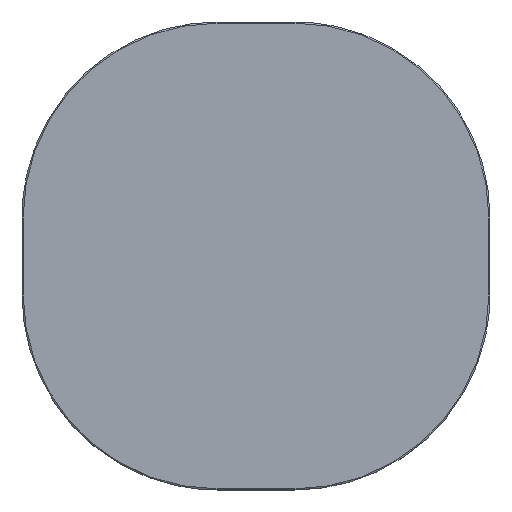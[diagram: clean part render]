
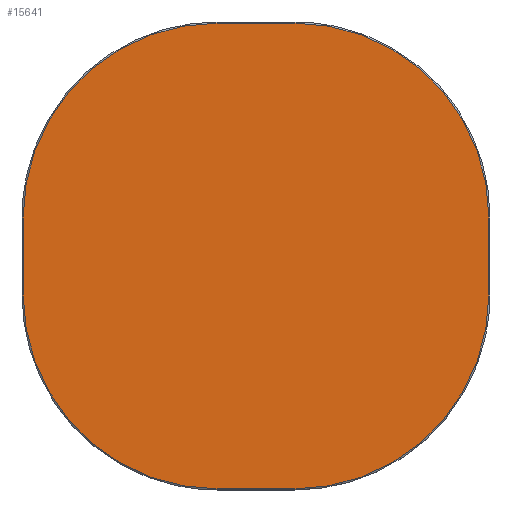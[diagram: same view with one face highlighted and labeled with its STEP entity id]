
A CAD part, top view. The second image highlights one B-rep face of the part: STEP entity #15641.
In plain terms, the highlighted planar face has unit normal (0, 0, 1).
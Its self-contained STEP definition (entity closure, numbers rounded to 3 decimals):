
#15551=CARTESIAN_POINT('',(0.,0.,20.));
#15552=DIRECTION('',(1.,0.,0.));
#15553=DIRECTION('',(0.,0.,1.));
#15554=AXIS2_PLACEMENT_3D('',#15551,#15553,#15552);
#15555=PLANE('',#15554);
#15556=CARTESIAN_POINT('',(-50.,-298.5,20.));
#15557=VERTEX_POINT('',#15556);
#15558=CARTESIAN_POINT('',(50.,-298.5,20.));
#15559=VERTEX_POINT('',#15558);
#15560=CARTESIAN_POINT('',(-50.,-298.5,20.));
#15561=DIRECTION('',(1.,0.,0.));
#15562=VECTOR('',#15561,100.);
#15563=LINE('',#15560,#15562);
#15564=EDGE_CURVE('',#15557,#15559,#15563,.T.);
#15565=ORIENTED_EDGE('E105',*,*,#15564,.T.);
#15566=CARTESIAN_POINT('',(298.5,-50.,20.));
#15567=VERTEX_POINT('',#15566);
#15568=CARTESIAN_POINT('',(50.,-50.,20.));
#15569=DIRECTION('',(0.,-1.,0.));
#15570=DIRECTION('',(0.,0.,1.));
#15571=AXIS2_PLACEMENT_3D('',#15568,#15570,#15569);
#15572=CIRCLE('',#15571,248.5);
#15573=EDGE_CURVE('',#15559,#15567,#15572,.T.);
#15574=ORIENTED_EDGE('E107',*,*,#15573,.T.);
#15575=CARTESIAN_POINT('',(298.5,50.001,20.));
#15576=VERTEX_POINT('',#15575);
#15577=CARTESIAN_POINT('',(298.5,-50.,20.));
#15578=CARTESIAN_POINT('',(298.5,-23.23,20.));
#15579=CARTESIAN_POINT('',(298.5,26.77,20.));
#15580=CARTESIAN_POINT('',(298.5,50.001,20.));
#15581=B_SPLINE_CURVE_WITH_KNOTS('',2,(#15577,#15578,#15579,#15580),.UNSPECIFIED.,.F.,.U.,(3,1,3),(0.,0.535,1.),.UNSPECIFIED.);
#15582=EDGE_CURVE('',#15567,#15576,#15581,.T.);
#15583=ORIENTED_EDGE('E109',*,*,#15582,.T.);
#15584=CARTESIAN_POINT('',(50.,298.5,20.));
#15585=VERTEX_POINT('',#15584);
#15586=CARTESIAN_POINT('',(50.,50.,20.));
#15587=DIRECTION('',(1.,0.,0.));
#15588=DIRECTION('',(0.,0.,1.));
#15589=AXIS2_PLACEMENT_3D('',#15586,#15588,#15587);
#15590=CIRCLE('',#15589,248.5);
#15591=EDGE_CURVE('',#15576,#15585,#15590,.T.);
#15592=ORIENTED_EDGE('E111',*,*,#15591,.T.);
#15593=CARTESIAN_POINT('',(-50.001,298.5,20.));
#15594=VERTEX_POINT('',#15593);
#15595=CARTESIAN_POINT('',(50.,298.5,20.));
#15596=CARTESIAN_POINT('',(44.06,298.499,20.));
#15597=CARTESIAN_POINT('',(33.903,298.5,20.));
#15598=CARTESIAN_POINT('',(23.359,298.5,20.));
#15599=CARTESIAN_POINT('',(7.191,298.5,20.));
#15600=CARTESIAN_POINT('',(-12.023,298.5,20.));
#15601=CARTESIAN_POINT('',(-27.644,298.501,20.));
#15602=CARTESIAN_POINT('',(-38.058,298.499,20.));
#15603=CARTESIAN_POINT('',(-46.112,298.498,20.));
#15604=CARTESIAN_POINT('',(-50.001,298.5,20.));
#15605=B_SPLINE_CURVE_WITH_KNOTS('',2,(#15595,#15596,#15597,#15598,#15599,#15600,#15601,#15602,#15603,#15604),.UNSPECIFIED.,.F.,.U.,(3,1,1,1,1,1,1,1,3),(0.,0.119,0.203,0.33,0.527,0.714,0.839,0.922,1.),.UNSPECIFIED.);
#15606=EDGE_CURVE('',#15585,#15594,#15605,.T.);
#15607=ORIENTED_EDGE('E113',*,*,#15606,.T.);
#15608=CARTESIAN_POINT('',(-298.5,50.,20.));
#15609=VERTEX_POINT('',#15608);
#15610=CARTESIAN_POINT('',(-50.,50.,20.));
#15611=DIRECTION('',(0.,1.,0.));
#15612=DIRECTION('',(0.,0.,1.));
#15613=AXIS2_PLACEMENT_3D('',#15610,#15612,#15611);
#15614=CIRCLE('',#15613,248.5);
#15615=EDGE_CURVE('',#15594,#15609,#15614,.T.);
#15616=ORIENTED_EDGE('E115',*,*,#15615,.T.);
#15617=CARTESIAN_POINT('',(-298.5,-50.001,20.));
#15618=VERTEX_POINT('',#15617);
#15619=CARTESIAN_POINT('',(-298.5,50.,20.));
#15620=CARTESIAN_POINT('',(-298.499,44.06,20.));
#15621=CARTESIAN_POINT('',(-298.5,33.903,20.));
#15622=CARTESIAN_POINT('',(-298.5,23.359,20.));
#15623=CARTESIAN_POINT('',(-298.5,7.191,20.));
#15624=CARTESIAN_POINT('',(-298.5,-12.023,20.));
#15625=CARTESIAN_POINT('',(-298.501,-27.644,20.));
#15626=CARTESIAN_POINT('',(-298.499,-38.058,20.));
#15627=CARTESIAN_POINT('',(-298.498,-46.112,20.));
#15628=CARTESIAN_POINT('',(-298.5,-50.001,20.));
#15629=B_SPLINE_CURVE_WITH_KNOTS('',2,(#15619,#15620,#15621,#15622,#15623,#15624,#15625,#15626,#15627,#15628),.UNSPECIFIED.,.F.,.U.,(3,1,1,1,1,1,1,1,3),(0.,0.119,0.203,0.33,0.527,0.714,0.839,0.922,1.),.UNSPECIFIED.);
#15630=EDGE_CURVE('',#15609,#15618,#15629,.T.);
#15631=ORIENTED_EDGE('E117',*,*,#15630,.T.);
#15632=CARTESIAN_POINT('',(-50.,-50.,20.));
#15633=DIRECTION('',(-1.,0.,0.));
#15634=DIRECTION('',(0.,0.,1.));
#15635=AXIS2_PLACEMENT_3D('',#15632,#15634,#15633);
#15636=CIRCLE('',#15635,248.5);
#15637=EDGE_CURVE('',#15618,#15557,#15636,.T.);
#15638=ORIENTED_EDGE('E119',*,*,#15637,.T.);
#15639=EDGE_LOOP('',(#15565,#15574,#15583,#15592,#15607,#15616,#15631,#15638));
#15640=FACE_OUTER_BOUND('',#15639,.T.);
#15641=ADVANCED_FACE('F2',(#15640),#15555,.T.);
